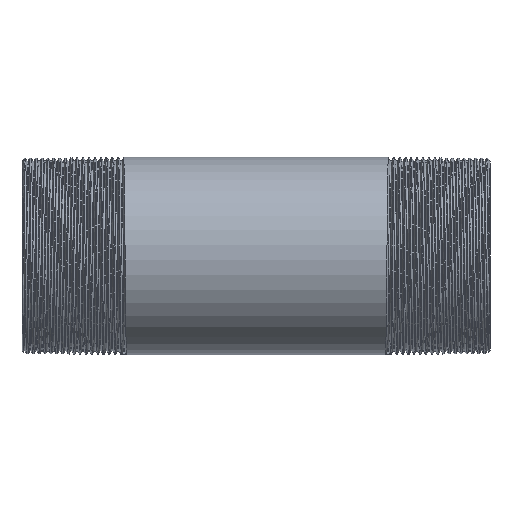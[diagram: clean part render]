
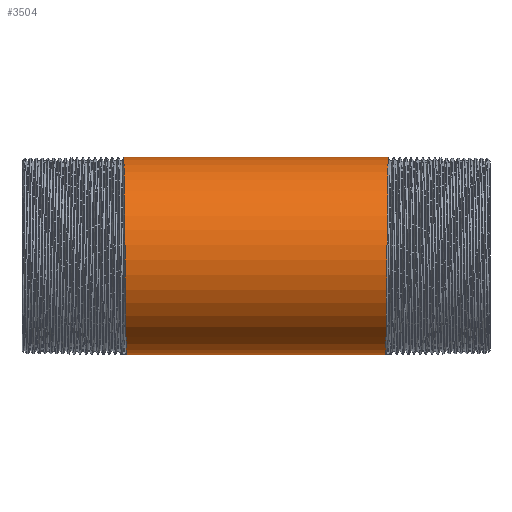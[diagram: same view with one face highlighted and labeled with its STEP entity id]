
A CAD part, front view. The second image highlights one B-rep face of the part: STEP entity #3504.
In plain terms, the highlighted cylindrical face has radius 16.85 mm (diameter 33.7 mm), a partial arc.
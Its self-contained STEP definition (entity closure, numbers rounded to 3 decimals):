
#374 = DIRECTION ( 'NONE',  ( -1., 0., 0. ) ) ;
#467 = CARTESIAN_POINT ( 'NONE',  ( 22.375, -16.85, 0. ) ) ;
#1280 = CARTESIAN_POINT ( 'NONE',  ( -22.313, -16.85, -6.979 ) ) ;
#1386 = EDGE_LOOP ( 'NONE', ( #8850, #4929, #11542, #7591 ) ) ;
#1720 = CARTESIAN_POINT ( 'NONE',  ( 22.5, -11.915, 11.915 ) ) ;
#1805 = CARTESIAN_POINT ( 'NONE',  ( 22.25, -11.915, -11.915 ) ) ;
#2372 = LINE ( 'NONE', #13330, #4504 ) ;
#2769 = AXIS2_PLACEMENT_3D ( 'NONE', #3953, #13882, #11525 ) ;
#3504 = ADVANCED_FACE ( 'NONE', ( #7561 ), #6760, .T. ) ;
#3544 = DIRECTION ( 'NONE',  ( -1., 0., 0. ) ) ;
#3636 = CARTESIAN_POINT ( 'NONE',  ( 22.125, 0., -16.85 ) ) ;
#3953 = CARTESIAN_POINT ( 'NONE',  ( -149.494, 0., 0. ) ) ;
#4144 = CARTESIAN_POINT ( 'NONE',  ( 22.188, -6.979, -16.85 ) ) ;
#4162 = VERTEX_POINT ( 'NONE', #6497 ) ;
#4504 = VECTOR ( 'NONE', #3544, 1000. ) ;
#4929 = ORIENTED_EDGE ( 'NONE', *, *, #9303, .T. ) ;
#5251 = CARTESIAN_POINT ( 'NONE',  ( 22.125, 0., -16.85 ) ) ;
#5384 = CARTESIAN_POINT ( 'NONE',  ( -149.494, 0., -16.85 ) ) ;
#5412 = CARTESIAN_POINT ( 'NONE',  ( 22.563, -6.979, 16.85 ) ) ;
#5746 = VERTEX_POINT ( 'NONE', #3636 ) ;
#5995 = CARTESIAN_POINT ( 'NONE',  ( -22.438, -16.85, 6.979 ) ) ;
#6138 = CARTESIAN_POINT ( 'NONE',  ( -22.125, 0., -16.85 ) ) ;
#6497 = CARTESIAN_POINT ( 'NONE',  ( -22.125, 0., -16.85 ) ) ;
#6760 = CYLINDRICAL_SURFACE ( 'NONE', #2769, 16.85 ) ;
#7353 = CARTESIAN_POINT ( 'NONE',  ( -22.625, 0., 16.85 ) ) ;
#7561 = FACE_OUTER_BOUND ( 'NONE', #1386, .T. ) ;
#7591 = ORIENTED_EDGE ( 'NONE', *, *, #10981, .F. ) ;
#7724 = VECTOR ( 'NONE', #374, 1000. ) ;
#8222 = EDGE_CURVE ( 'NONE', #10830, #11178, #2372, .T. ) ;
#8473 = CARTESIAN_POINT ( 'NONE',  ( -22.188, -6.979, -16.85 ) ) ;
#8760 = CARTESIAN_POINT ( 'NONE',  ( 22.625, 0., 16.85 ) ) ;
#8850 = ORIENTED_EDGE ( 'NONE', *, *, #14259, .F. ) ;
#9186 =( BOUNDED_CURVE ( )  B_SPLINE_CURVE ( 2, ( #6138, #8473, #13262, #1280, #14504, #5995, #10749, #10824, #10895 ),
 .UNSPECIFIED., .F., .F. ) 
 B_SPLINE_CURVE_WITH_KNOTS ( ( 3, 2, 2, 2, 3 ),
 ( 0., 0.006, 0.011, 0.017, 0.023 ),
 .UNSPECIFIED. ) 
 CURVE ( )  GEOMETRIC_REPRESENTATION_ITEM ( )  RATIONAL_B_SPLINE_CURVE ( ( 1., 0.924, 1., 0.924, 1., 0.924, 1., 0.924, 1. ) ) 
 REPRESENTATION_ITEM ( '' )  );
#9303 = EDGE_CURVE ( 'NONE', #5746, #10830, #11182, .T. ) ;
#10014 = CARTESIAN_POINT ( 'NONE',  ( 22.438, -16.85, 6.979 ) ) ;
#10699 = CARTESIAN_POINT ( 'NONE',  ( 22.625, 0., 16.85 ) ) ;
#10749 = CARTESIAN_POINT ( 'NONE',  ( -22.5, -11.915, 11.915 ) ) ;
#10824 = CARTESIAN_POINT ( 'NONE',  ( -22.563, -6.979, 16.85 ) ) ;
#10830 = VERTEX_POINT ( 'NONE', #10699 ) ;
#10895 = CARTESIAN_POINT ( 'NONE',  ( -22.625, 0., 16.85 ) ) ;
#10981 = EDGE_CURVE ( 'NONE', #4162, #11178, #9186, .T. ) ;
#11178 = VERTEX_POINT ( 'NONE', #7353 ) ;
#11182 =( BOUNDED_CURVE ( )  B_SPLINE_CURVE ( 2, ( #5251, #4144, #1805, #12289, #467, #10014, #1720, #5412, #8760 ),
 .UNSPECIFIED., .F., .F. ) 
 B_SPLINE_CURVE_WITH_KNOTS ( ( 3, 2, 2, 2, 3 ),
 ( 0., 0.006, 0.011, 0.017, 0.023 ),
 .UNSPECIFIED. ) 
 CURVE ( )  GEOMETRIC_REPRESENTATION_ITEM ( )  RATIONAL_B_SPLINE_CURVE ( ( 1., 0.924, 1., 0.924, 1., 0.924, 1., 0.924, 1. ) ) 
 REPRESENTATION_ITEM ( '' )  );
#11525 = DIRECTION ( 'NONE',  ( 0., 0., 1. ) ) ;
#11542 = ORIENTED_EDGE ( 'NONE', *, *, #8222, .T. ) ;
#12289 = CARTESIAN_POINT ( 'NONE',  ( 22.313, -16.85, -6.979 ) ) ;
#13262 = CARTESIAN_POINT ( 'NONE',  ( -22.25, -11.915, -11.915 ) ) ;
#13330 = CARTESIAN_POINT ( 'NONE',  ( -149.494, 0., 16.85 ) ) ;
#13882 = DIRECTION ( 'NONE',  ( -1., 0., 0. ) ) ;
#14259 = EDGE_CURVE ( 'NONE', #5746, #4162, #14689, .T. ) ;
#14504 = CARTESIAN_POINT ( 'NONE',  ( -22.375, -16.85, 0. ) ) ;
#14689 = LINE ( 'NONE', #5384, #7724 ) ;
